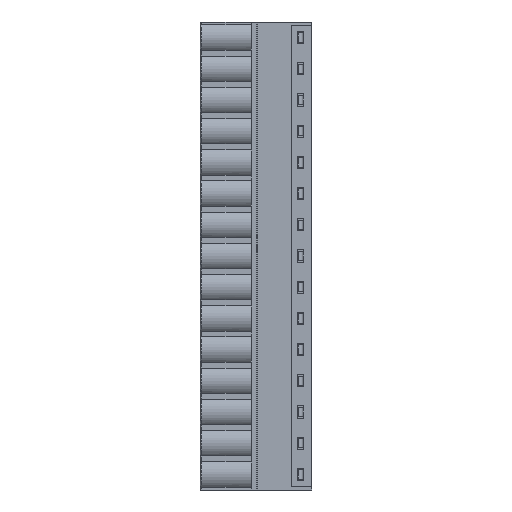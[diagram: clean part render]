
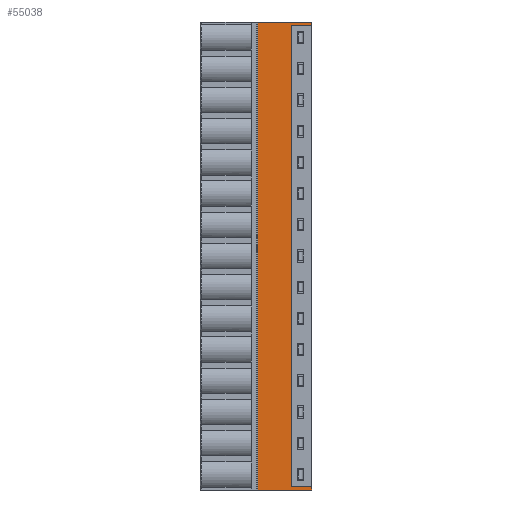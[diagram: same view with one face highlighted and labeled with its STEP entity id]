
A CAD part, left-side view. The second image highlights one B-rep face of the part: STEP entity #55038.
In plain terms, the highlighted planar face has unit normal (-1, 0, 0).
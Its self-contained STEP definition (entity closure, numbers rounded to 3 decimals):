
#330 = DIRECTION ( 'NONE',  ( 0., -1., 0. ) ) ;
#517 = CARTESIAN_POINT ( 'NONE',  ( -3.9, 0., 0.49 ) ) ;
#519 = DIRECTION ( 'NONE',  ( 0., 0., -1. ) ) ;
#842 = CARTESIAN_POINT ( 'NONE',  ( -3.9, 3.3, 75.708 ) ) ;
#1771 = CARTESIAN_POINT ( 'NONE',  ( -3.9, 2.9, 0.49 ) ) ;
#2055 = VERTEX_POINT ( 'NONE', #45847 ) ;
#2691 = AXIS2_PLACEMENT_3D ( 'NONE', #16125, #40238, #35302 ) ;
#3083 = CARTESIAN_POINT ( 'NONE',  ( -3.9, 3.3, 0.492 ) ) ;
#3092 = FACE_OUTER_BOUND ( 'NONE', #20440, .T. ) ;
#4371 = LINE ( 'NONE', #14267, #8182 ) ;
#5476 = CARTESIAN_POINT ( 'NONE',  ( -3.9, 0., 76.2 ) ) ;
#5893 = ORIENTED_EDGE ( 'NONE', *, *, #33848, .F. ) ;
#6509 = B_SPLINE_CURVE_WITH_KNOTS ( 'NONE', 3,
 ( #6979, #25255, #44755, #20923 ),
 .UNSPECIFIED., .F., .F.,
 ( 4, 4 ),
 ( 0., 1. ),
 .UNSPECIFIED. ) ;
#6535 = EDGE_CURVE ( 'NONE', #33308, #38713, #4371, .T. ) ;
#6979 = CARTESIAN_POINT ( 'NONE',  ( -3.9, 2.9, 75.71 ) ) ;
#8182 = VECTOR ( 'NONE', #330, 1000. ) ;
#9812 = CARTESIAN_POINT ( 'NONE',  ( -3.9, 2.9, 0.49 ) ) ;
#10189 = VECTOR ( 'NONE', #21587, 1000. ) ;
#10792 = ORIENTED_EDGE ( 'NONE', *, *, #6535, .F. ) ;
#12041 = EDGE_CURVE ( 'NONE', #33308, #29751, #47915, .T. ) ;
#13074 = CARTESIAN_POINT ( 'NONE',  ( -3.9, 8.8, 76.2 ) ) ;
#13247 = EDGE_CURVE ( 'NONE', #47851, #57876, #60519, .T. ) ;
#14267 = CARTESIAN_POINT ( 'NONE',  ( -3.9, 8.8, 76.2 ) ) ;
#15903 = VECTOR ( 'NONE', #29300, 1000. ) ;
#16027 = CARTESIAN_POINT ( 'NONE',  ( -3.9, 3.167, 0.492 ) ) ;
#16125 = CARTESIAN_POINT ( 'NONE',  ( -3.9, 8.9, 0. ) ) ;
#17802 = CARTESIAN_POINT ( 'NONE',  ( -3.9, 8.8, 0. ) ) ;
#19163 = VERTEX_POINT ( 'NONE', #34452 ) ;
#19332 = CARTESIAN_POINT ( 'NONE',  ( -3.9, 2.9, 0.49 ) ) ;
#19408 = DIRECTION ( 'NONE',  ( 0., 0., -1. ) ) ;
#19421 = CARTESIAN_POINT ( 'NONE',  ( -3.9, 0.967, 0.49 ) ) ;
#20440 = EDGE_LOOP ( 'NONE', ( #29180, #50338, #28219, #36858, #5893, #55825, #42516, #46487, #10792, #35752 ) ) ;
#20923 = CARTESIAN_POINT ( 'NONE',  ( -3.9, 0., 75.71 ) ) ;
#21587 = DIRECTION ( 'NONE',  ( 0., 0., -1. ) ) ;
#23229 = VECTOR ( 'NONE', #45987, 1000. ) ;
#24060 = LINE ( 'NONE', #517, #48889 ) ;
#24952 = CARTESIAN_POINT ( 'NONE',  ( -3.9, 0., 0. ) ) ;
#25255 = CARTESIAN_POINT ( 'NONE',  ( -3.9, 1.933, 75.71 ) ) ;
#26234 = LINE ( 'NONE', #35846, #10189 ) ;
#26861 = VERTEX_POINT ( 'NONE', #842 ) ;
#28219 = ORIENTED_EDGE ( 'NONE', *, *, #13247, .F. ) ;
#28435 = VECTOR ( 'NONE', #519, 1000. ) ;
#28712 = CARTESIAN_POINT ( 'NONE',  ( -3.9, 0., 0.49 ) ) ;
#29180 = ORIENTED_EDGE ( 'NONE', *, *, #38931, .T. ) ;
#29300 = DIRECTION ( 'NONE',  ( 0., 0., -1. ) ) ;
#29751 = VERTEX_POINT ( 'NONE', #40704 ) ;
#33308 = VERTEX_POINT ( 'NONE', #13074 ) ;
#33354 = CARTESIAN_POINT ( 'NONE',  ( -3.9, 1.933, 0.49 ) ) ;
#33848 = EDGE_CURVE ( 'NONE', #26861, #52015, #56639, .T. ) ;
#34452 = CARTESIAN_POINT ( 'NONE',  ( -3.9, 2.9, 75.71 ) ) ;
#35302 = DIRECTION ( 'NONE',  ( 0., 0., 1. ) ) ;
#35752 = ORIENTED_EDGE ( 'NONE', *, *, #12041, .T. ) ;
#35846 = CARTESIAN_POINT ( 'NONE',  ( -3.9, 0., 76.2 ) ) ;
#36031 = CARTESIAN_POINT ( 'NONE',  ( -3.9, 2.9, 75.71 ) ) ;
#36334 = CARTESIAN_POINT ( 'NONE',  ( -3.9, 3.167, 75.708 ) ) ;
#36858 = ORIENTED_EDGE ( 'NONE', *, *, #42670, .F. ) ;
#36903 = CARTESIAN_POINT ( 'NONE',  ( -3.9, 0., 0.49 ) ) ;
#37379 = EDGE_CURVE ( 'NONE', #38713, #2055, #26234, .T. ) ;
#37659 = EDGE_CURVE ( 'NONE', #19163, #2055, #6509, .T. ) ;
#38713 = VERTEX_POINT ( 'NONE', #5476 ) ;
#38785 = EDGE_CURVE ( 'NONE', #57876, #58983, #24060, .T. ) ;
#38931 = EDGE_CURVE ( 'NONE', #29751, #58983, #41317, .T. ) ;
#39236 = CARTESIAN_POINT ( 'NONE',  ( -3.9, 3.3, 0.492 ) ) ;
#40238 = DIRECTION ( 'NONE',  ( -1., 0., 0. ) ) ;
#40671 = CARTESIAN_POINT ( 'NONE',  ( -3.9, 3.033, 75.709 ) ) ;
#40704 = CARTESIAN_POINT ( 'NONE',  ( -3.9, 8.8, 0. ) ) ;
#41317 = LINE ( 'NONE', #17802, #23229 ) ;
#42516 = ORIENTED_EDGE ( 'NONE', *, *, #37659, .T. ) ;
#42670 = EDGE_CURVE ( 'NONE', #52015, #47851, #53294, .T. ) ;
#44755 = CARTESIAN_POINT ( 'NONE',  ( -3.9, 0.967, 75.71 ) ) ;
#45412 = EDGE_CURVE ( 'NONE', #26861, #19163, #52397, .T. ) ;
#45847 = CARTESIAN_POINT ( 'NONE',  ( -3.9, 0., 75.71 ) ) ;
#45987 = DIRECTION ( 'NONE',  ( 0., -1., 0. ) ) ;
#46487 = ORIENTED_EDGE ( 'NONE', *, *, #37379, .F. ) ;
#47851 = VERTEX_POINT ( 'NONE', #19332 ) ;
#47915 = LINE ( 'NONE', #56638, #28435 ) ;
#48889 = VECTOR ( 'NONE', #19408, 1000. ) ;
#49380 = CARTESIAN_POINT ( 'NONE',  ( -3.9, 3.3, 75.708 ) ) ;
#50338 = ORIENTED_EDGE ( 'NONE', *, *, #38785, .F. ) ;
#51965 = CARTESIAN_POINT ( 'NONE',  ( -3.9, 3.3, 75.708 ) ) ;
#52015 = VERTEX_POINT ( 'NONE', #3083 ) ;
#52397 = B_SPLINE_CURVE_WITH_KNOTS ( 'NONE', 3,
 ( #49380, #36334, #40671, #36031 ),
 .UNSPECIFIED., .F., .F.,
 ( 4, 4 ),
 ( 0., 1. ),
 .UNSPECIFIED. ) ;
#53294 = B_SPLINE_CURVE_WITH_KNOTS ( 'NONE', 3,
 ( #39236, #16027, #54439, #1771 ),
 .UNSPECIFIED., .F., .F.,
 ( 4, 4 ),
 ( 0., 1. ),
 .UNSPECIFIED. ) ;
#53933 = PLANE ( 'NONE',  #2691 ) ;
#54439 = CARTESIAN_POINT ( 'NONE',  ( -3.9, 3.033, 0.491 ) ) ;
#55038 = ADVANCED_FACE ( 'NONE', ( #3092 ), #53933, .T. ) ;
#55825 = ORIENTED_EDGE ( 'NONE', *, *, #45412, .T. ) ;
#56638 = CARTESIAN_POINT ( 'NONE',  ( -3.9, 8.8, 76.2 ) ) ;
#56639 = LINE ( 'NONE', #51965, #15903 ) ;
#57876 = VERTEX_POINT ( 'NONE', #36903 ) ;
#58983 = VERTEX_POINT ( 'NONE', #24952 ) ;
#60519 = B_SPLINE_CURVE_WITH_KNOTS ( 'NONE', 3,
 ( #9812, #33354, #19421, #28712 ),
 .UNSPECIFIED., .F., .F.,
 ( 4, 4 ),
 ( 0., 1. ),
 .UNSPECIFIED. ) ;
